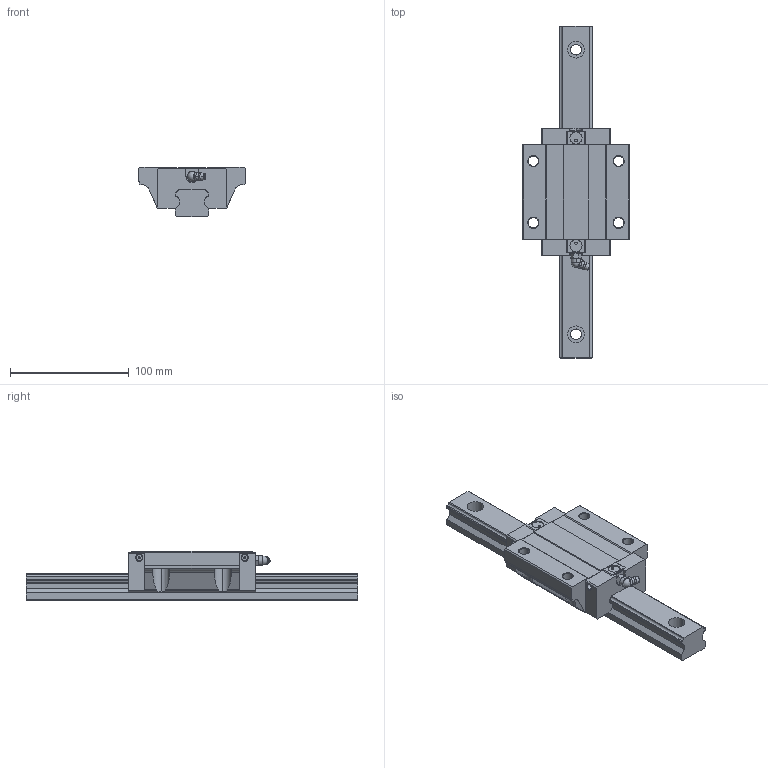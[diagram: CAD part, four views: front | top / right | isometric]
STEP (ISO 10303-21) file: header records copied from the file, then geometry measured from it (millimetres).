
FILE_DESCRIPTION((''),'1');
FILE_NAME(' ',' ',(''),(''),'ACIS Interop R16','Kubotek KeyCreator V6.5.2 (0407)',' ');
FILE_SCHEMA(('CONFIG_CONTROL_DESIGN'));
Length unit declared in the file: millimetre
Products named in the file (3): 1; 2; 3
Bounding box: 90 x 280 x 42 mm (x, y, z)
Volume: 369741.7 mm3; surface area: 68328.6 mm2
Topology: 3 solids, 3 shells, 266 faces, 713 edges, 469 vertices
Faces by surface type: plane 145, cylinder 88, cone 18, torus 10, sphere 3, bspline 2
Entity records: 8668 total; most frequent: CARTESIAN_POINT 1695, DIRECTION 1454, ORIENTED_EDGE 1422, EDGE_CURVE 711, AXIS2_PLACEMENT_3D 512, VERTEX_POINT 469, LINE 430, VECTOR 430
